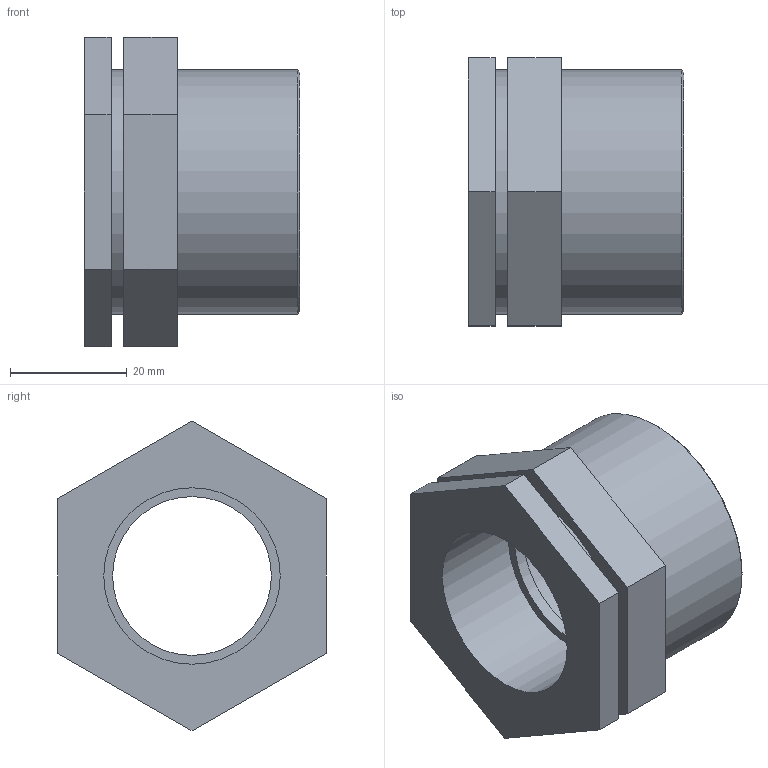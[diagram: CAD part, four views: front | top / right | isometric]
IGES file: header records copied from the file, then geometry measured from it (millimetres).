
Global section: file name: 050207013010_0502070130100A.ipt; native system: Autodesk Inventor 2015; preprocessor: unknown; author: KIM; date: 20170618.093117; units: millimetre
Bounding box: 37 x 46 x 53.12 mm (x, y, z)
Volume: 22877.5 mm3; surface area: 13742 mm2
Topology: 1 solids, 1 shells, 28 faces, 66 edges, 46 vertices
Faces by surface type: plane 20, revolution 4, cylinder 3, cone 1
Full cylindrical faces by diameter (mm): 36.349 x1, 41.91 x2
